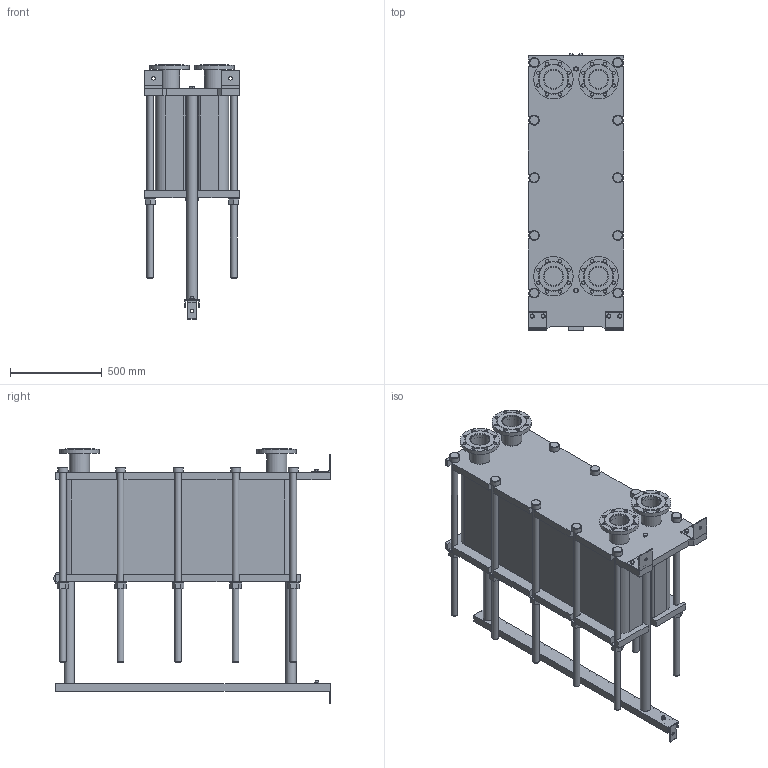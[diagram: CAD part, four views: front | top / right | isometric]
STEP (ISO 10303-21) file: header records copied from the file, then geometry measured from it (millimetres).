
FILE_DESCRIPTION(/* description */ (''),/* implementation_level */ '2;1');
FILE_NAME(/* name */ 'C:\Users\zhuro\Desktop\ENCO\TO\ЭН-04\ЭН-0,5-04-150-1.stp',/* time_stamp */ '2022-06-06T10:58:46+03:00',/* author */ ('zhuro'),/* organization */ (''),/* preprocessor_version */ 'ST-DEVELOPER v18.1',/* originating_system */ 'Autodesk Inventor 2022',/* authorisation */ '');
FILE_SCHEMA (('AUTOMOTIVE_DESIGN { 1 0 10303 214 3 1 1 }'));
Length unit declared in the file: millimetre
Products named in the file (1): ЭН-0,5-04-150-1
Bounding box: 520 x 1510 x 1390 mm (x, y, z)
Volume: 332521193.7 mm3; surface area: 9454766.7 mm2
Topology: 45 solids, 45 shells, 668 faces, 1611 edges, 1048 vertices
Faces by surface type: plane 457, cylinder 166, cone 39, torus 6
Full cylindrical faces by diameter (mm): 8 x4, 10 x2, 16 x8, 18 x35, 36 x25, 40 x2, 42 x1, 45 x4, 54 x10, 57 x2, 60 x10, 68 x2, 100 x4, 110 x8, 215 x4
Entity records: 23607 total; most frequent: CARTESIAN_POINT 7348, DIRECTION 3371, ORIENTED_EDGE 3142, EDGE_CURVE 1571, AXIS2_PLACEMENT_3D 1199, VERTEX_POINT 1044, LINE 973, VECTOR 973
